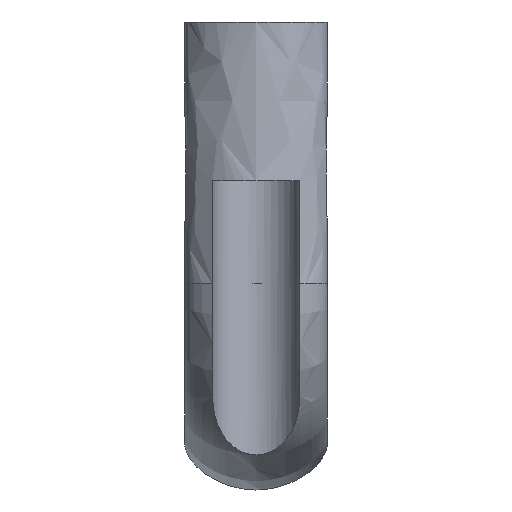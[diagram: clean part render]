
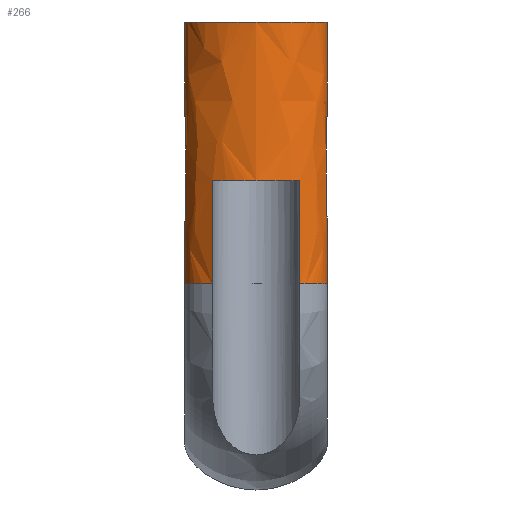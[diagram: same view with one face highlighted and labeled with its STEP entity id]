
A CAD part, left-side view. The second image highlights one B-rep face of the part: STEP entity #266.
In plain terms, the highlighted free-form (B-spline) face has degree [3, 1] with [7, 2] control points.
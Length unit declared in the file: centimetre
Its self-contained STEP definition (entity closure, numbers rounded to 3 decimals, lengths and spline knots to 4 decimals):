
#38=B_SPLINE_SURFACE_WITH_KNOTS('',3,1,((#469,#470),(#471,#472),(#473,#474),
(#475,#476),(#477,#478),(#479,#480),(#481,#482)),.UNSPECIFIED.,.T.,.F.,.U.,
(4,1,1,1,4),(2,2),(-4.3267,-3.245,-2.1633,
-1.0817,0.),(0.,3.3),.UNSPECIFIED.);
#43=B_SPLINE_CURVE_WITH_KNOTS('',3,(#340,#341,#342,#343),.UNSPECIFIED.,.F.,
.U.,(4,4),(-1.35,-0.05),.UNSPECIFIED.);
#44=B_SPLINE_CURVE_WITH_KNOTS('',3,(#345,#346,#347,#348,#349,#350),.UNSPECIFIED.,
.F.,.U.,(4,2,4),(-1.1323,-0.7943,-0.5999),
.UNSPECIFIED.);
#45=B_SPLINE_CURVE_WITH_KNOTS('',3,(#356,#357,#358,#359,#360,#361),.UNSPECIFIED.,
.F.,.U.,(4,2,4),(-0.5999,-0.394,-0.0577),
.UNSPECIFIED.);
#48=B_SPLINE_CURVE_WITH_KNOTS('',3,(#395,#396,#397,#398),.UNSPECIFIED.,.F.,
.U.,(4,4),(-1.3,0.),.UNSPECIFIED.);
#55=B_SPLINE_CURVE_WITH_KNOTS('',3,(#485,#486,#487,#488,#489,#490,#491),
.UNSPECIFIED.,.T.,.U.,(4,1,1,1,4),(0.,1.0817,2.1633,3.245,
4.3267),.UNSPECIFIED.);
#56=B_SPLINE_CURVE_WITH_KNOTS('',3,(#492,#493,#494,#495,#496,#497,#498),
.UNSPECIFIED.,.T.,.U.,(4,1,1,1,4),(0.,1.0817,2.1633,3.245,
4.3267),.UNSPECIFIED.);
#71=VECTOR('',#321,1.);
#82=LINE('',#483,#71);
#86=VERTEX_POINT('',#335);
#88=VERTEX_POINT('',#339);
#89=VERTEX_POINT('',#351);
#91=VERTEX_POINT('',#355);
#94=VERTEX_POINT('',#394);
#105=VERTEX_POINT('',#484);
#120=EDGE_CURVE('',#86,#88,#43,.T.);
#121=EDGE_CURVE('',#88,#89,#44,.T.);
#124=EDGE_CURVE('',#89,#91,#45,.T.);
#129=EDGE_CURVE('',#91,#94,#48,.T.);
#143=EDGE_CURVE('',#89,#105,#82,.T.);
#144=EDGE_CURVE('',#105,#105,#55,.T.);
#145=EDGE_CURVE('',#86,#94,#56,.T.);
#190=ORIENTED_EDGE('',*,*,#120,.T.);
#191=ORIENTED_EDGE('',*,*,#121,.T.);
#192=ORIENTED_EDGE('',*,*,#143,.T.);
#193=ORIENTED_EDGE('',*,*,#144,.T.);
#194=ORIENTED_EDGE('',*,*,#143,.F.);
#195=ORIENTED_EDGE('',*,*,#124,.T.);
#196=ORIENTED_EDGE('',*,*,#129,.T.);
#197=ORIENTED_EDGE('',*,*,#145,.F.);
#236=EDGE_LOOP('',(#190,#191,#192,#193,#194,#195,#196,#197));
#251=FACE_BOUND('',#236,.T.);
#266=ADVANCED_FACE('',(#251),#38,.T.);
#321=DIRECTION('',(0.,0.,1.));
#335=CARTESIAN_POINT('',(-6.2566,0.5463,-3.3));
#339=CARTESIAN_POINT('',(-6.2566,0.5463,-2.));
#340=CARTESIAN_POINT('',(-6.2566,0.5463,-3.3));
#341=CARTESIAN_POINT('',(-6.2566,0.5463,-2.8667));
#342=CARTESIAN_POINT('',(-6.2566,0.5463,-2.4333));
#343=CARTESIAN_POINT('',(-6.2566,0.5463,-2.));
#345=CARTESIAN_POINT('',(-6.2566,0.5463,-2.));
#346=CARTESIAN_POINT('',(-6.3127,0.4451,-2.));
#347=CARTESIAN_POINT('',(-6.3557,0.3293,-2.));
#348=CARTESIAN_POINT('',(-6.393,0.1384,-2.));
#349=CARTESIAN_POINT('',(-6.4,0.0691,-2.));
#350=CARTESIAN_POINT('',(-6.4,0.,-2.));
#351=CARTESIAN_POINT('',(-6.4,0.,-2.));
#355=CARTESIAN_POINT('',(-6.2524,-0.5537,-2.));
#356=CARTESIAN_POINT('',(-6.4,0.,-2.));
#357=CARTESIAN_POINT('',(-6.4,-0.0732,-2.));
#358=CARTESIAN_POINT('',(-6.3922,-0.1463,-2.));
#359=CARTESIAN_POINT('',(-6.3523,-0.3397,-2.));
#360=CARTESIAN_POINT('',(-6.3087,-0.454,-2.));
#361=CARTESIAN_POINT('',(-6.2524,-0.5537,-2.));
#394=CARTESIAN_POINT('',(-6.2524,-0.5537,-3.3));
#395=CARTESIAN_POINT('',(-6.2524,-0.5537,-2.));
#396=CARTESIAN_POINT('',(-6.2524,-0.5537,-2.4333));
#397=CARTESIAN_POINT('',(-6.2524,-0.5537,-2.8667));
#398=CARTESIAN_POINT('',(-6.2524,-0.5537,-3.3));
#469=CARTESIAN_POINT('',(-6.4,0.,-3.3));
#470=CARTESIAN_POINT('',(-6.4,0.,0.));
#471=CARTESIAN_POINT('',(-6.4,-0.45,-3.3));
#472=CARTESIAN_POINT('',(-6.4,-0.45,0.));
#473=CARTESIAN_POINT('',(-5.8,-1.35,-3.3));
#474=CARTESIAN_POINT('',(-5.8,-1.35,0.));
#475=CARTESIAN_POINT('',(-4.9,0.,-3.3));
#476=CARTESIAN_POINT('',(-4.9,0.,0.));
#477=CARTESIAN_POINT('',(-5.8,1.35,-3.3));
#478=CARTESIAN_POINT('',(-5.8,1.35,0.));
#479=CARTESIAN_POINT('',(-6.4,0.45,-3.3));
#480=CARTESIAN_POINT('',(-6.4,0.45,0.));
#481=CARTESIAN_POINT('',(-6.4,0.,-3.3));
#482=CARTESIAN_POINT('',(-6.4,0.,0.));
#483=CARTESIAN_POINT('',(-6.4,0.,-3.3));
#484=CARTESIAN_POINT('',(-6.4,0.,0.));
#485=CARTESIAN_POINT('',(-6.4,0.,0.));
#486=CARTESIAN_POINT('',(-6.4,0.45,0.));
#487=CARTESIAN_POINT('',(-5.8,1.35,0.));
#488=CARTESIAN_POINT('',(-4.9,0.,0.));
#489=CARTESIAN_POINT('',(-5.8,-1.35,0.));
#490=CARTESIAN_POINT('',(-6.4,-0.45,0.));
#491=CARTESIAN_POINT('',(-6.4,0.,0.));
#492=CARTESIAN_POINT('',(-6.4,0.,-3.3));
#493=CARTESIAN_POINT('',(-6.4,0.45,-3.3));
#494=CARTESIAN_POINT('',(-5.8,1.35,-3.3));
#495=CARTESIAN_POINT('',(-4.9,0.,-3.3));
#496=CARTESIAN_POINT('',(-5.8,-1.35,-3.3));
#497=CARTESIAN_POINT('',(-6.4,-0.45,-3.3));
#498=CARTESIAN_POINT('',(-6.4,0.,-3.3));
